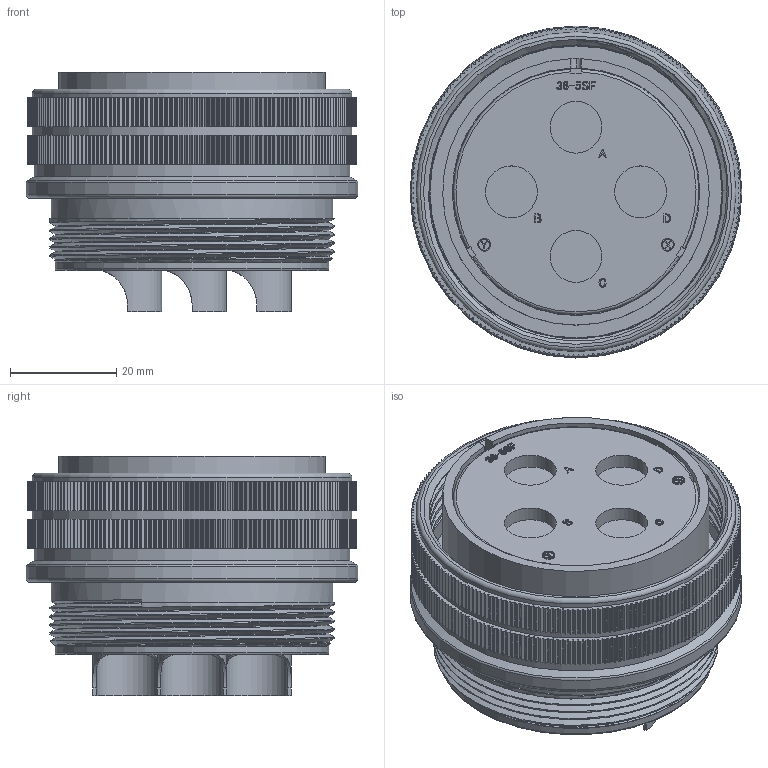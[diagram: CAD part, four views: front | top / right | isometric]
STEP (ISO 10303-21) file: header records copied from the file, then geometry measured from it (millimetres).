
FILE_DESCRIPTION (( 'STEP AP203' ), '1' );
FILE_NAME ('DMS3106A36-5S(D190).STEP', '2021-04-07T00:51:25', ( '' ), ( '' ), 'SwSTEP 2.0', 'SolidWorks 2018', '' );
FILE_SCHEMA (( 'CONFIG_CONTROL_DESIGN' ));
Products named in the file (1): DMS3106A36-5S(D190)
Bounding box: 62.63 x 62.63 x 45.25 mm (x, y, z)
Volume: 78994.2 mm3; surface area: 35198.6 mm2
Topology: 1 solids, 1 shells, 3094 faces, 9075 edges, 6046 vertices
Faces by surface type: cylinder 1718, plane 1084, bspline 279, torus 10, cone 3
Full cylindrical faces by diameter (mm): 2 x2, 2.4 x2, 9.78 x4, 11.79 x4, 13.03 x4, 43 x1, 46.69 x1, 47.96 x1, 51.6 x1, 53.19 x1, 53.91 x1, 55.09 x1, 55.44 x1, 56.18 x1, 59.52 x1, 60.35 x2, 62.63 x1
Entity records: 114030 total; most frequent: CARTESIAN_POINT 30552, ORIENTED_EDGE 18038, DIRECTION 17493, EDGE_CURVE 9019, AXIS2_PLACEMENT_3D 6249, VERTEX_POINT 6029, VECTOR 4995, LINE 4995
